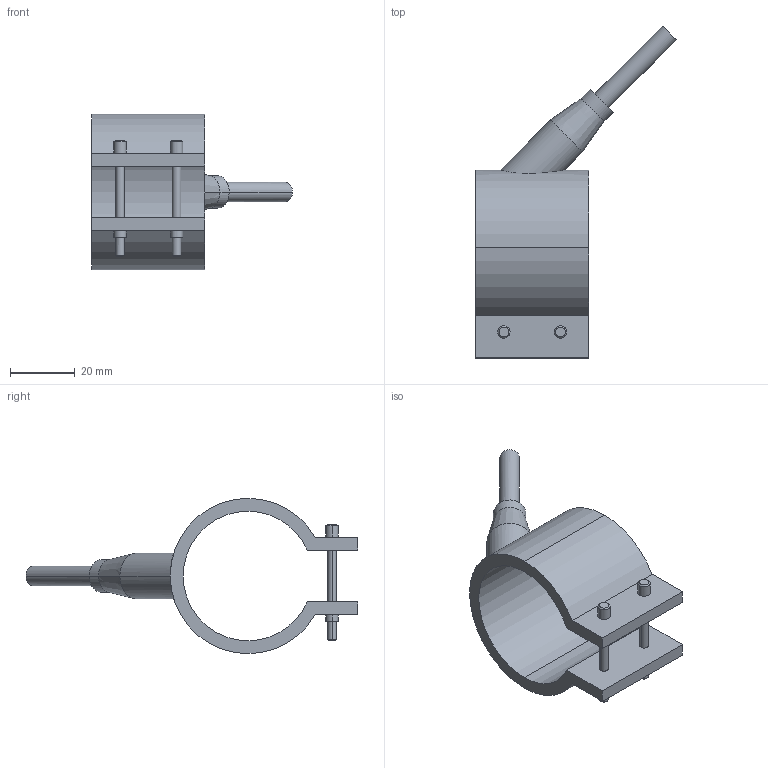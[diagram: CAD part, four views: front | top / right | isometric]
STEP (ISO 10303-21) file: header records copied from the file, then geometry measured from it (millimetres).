
FILE_DESCRIPTION(('CATIA V5 STEP Exchange'),'2;1');
FILE_NAME('C:\Users\Utente\Desktop\IO LAVORO\3D X SITO CF\X SITO\PLASTICA\RF1\29040035.stp','2021-03-27T08:56:54+00:00',('none'),('none'),'CATIA Version 5 Release 20 GA (IN-10)','CATIA V5 STEP AP203','none');
FILE_SCHEMA(('CONFIG_CONTROL_DESIGN'));
Length unit declared in the file: millimetre
Products named in the file (1): 29040035
Bounding box: 62.05 x 102.55 x 48 mm (x, y, z)
Volume: 25673.4 mm3; surface area: 13841.6 mm2
Topology: 1 solids, 1 shells, 54 faces, 124 edges, 80 vertices
Faces by surface type: cylinder 28, plane 16, cone 10
Entity records: 1724 total; most frequent: CARTESIAN_POINT 487, ORIENTED_EDGE 248, DIRECTION 213, EDGE_CURVE 124, AXIS2_PLACEMENT_3D 106, VERTEX_POINT 80, EDGE_LOOP 66, VECTOR 56
